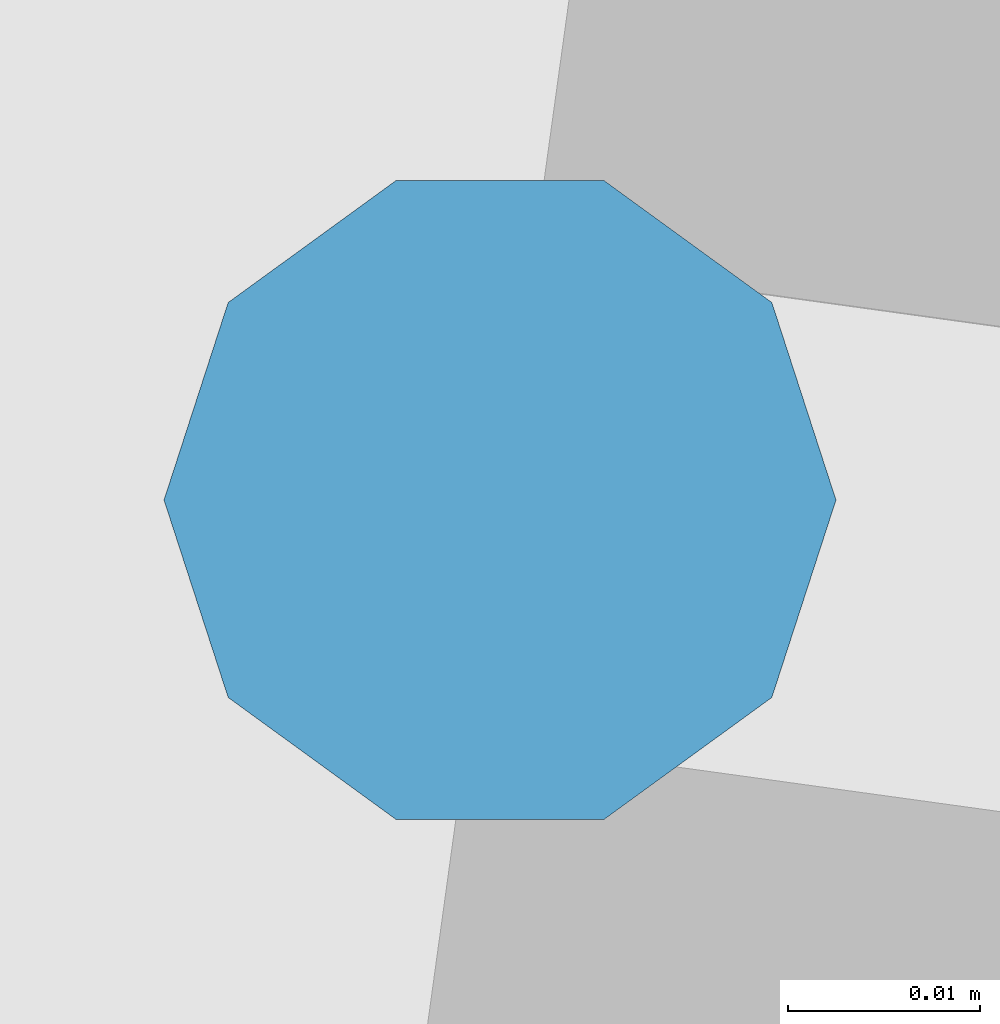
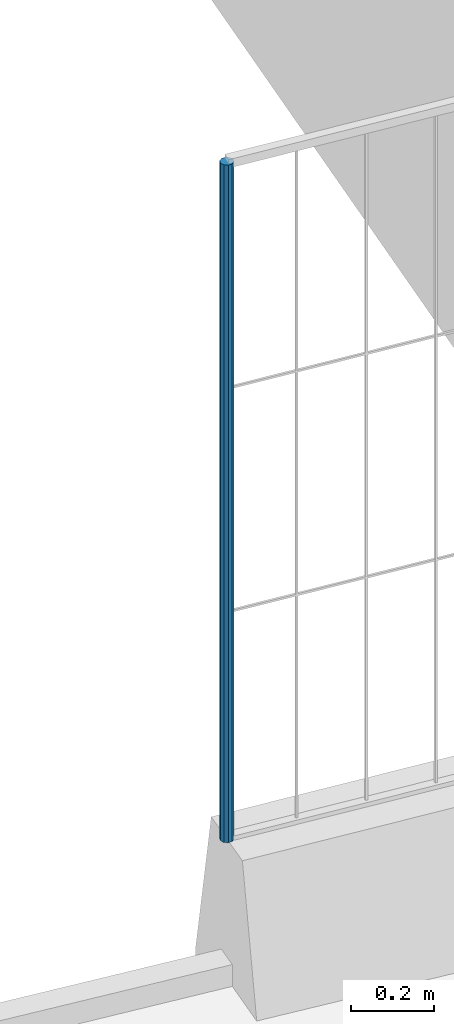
# Not in any storey, part 12 of 75: 1 member.
"""IFC4 model written with IfcOpenShell, lengths in metres."""

import ifcopenshell
import ifcopenshell.guid

model = None  # the IFC model being written
_history = None  # IfcOwnerHistory: only IFC2X3 demands one
_inside = {}  # id of a spatial element -> (the spatial element, [elements in it])
_under = {}  # id of a project, library or spatial element -> (it, [spatial elements below it])
_declared = {}  # id of a project -> (the project, [libraries it declares])
_typed = {}  # id of a type object -> (the type object, [elements of that type])
_made_of = {}  # id of a material, layer set ... -> (it, [elements and type objects made of it])


def new_model(schema):
    """Start an empty IFC model of exactly this schema.

    Asked for "IFC4X3", IfcOpenShell would pick the latest addendum, in which some entities
    have other attributes; the version numbers below select the first issue.
    IFC2X3 requires an IfcOwnerHistory on every rooted entity: one is made here for all.
    """
    global model, _history
    if schema == "IFC4X3":
        model = ifcopenshell.file(schema_version=(4, 3, 0, 0))
    else:
        model = ifcopenshell.file(schema=schema)
    _inside.clear()
    _under.clear()
    _declared.clear()
    _typed.clear()
    _made_of.clear()
    _history = None
    if model.schema == "IFC2X3":
        org = make("IfcOrganization", Name="unknown")
        user = make(
            "IfcPersonAndOrganization",
            ThePerson=make("IfcPerson", FamilyName="unknown"),
            TheOrganization=org,
        )
        app = make(
            "IfcApplication",
            ApplicationDeveloper=org,
            Version="unknown",
            ApplicationFullName="unknown",
            ApplicationIdentifier="unknown",
        )
        _history = make(
            "IfcOwnerHistory",
            OwningUser=user,
            OwningApplication=app,
            ChangeAction="ADDED",
            CreationDate=0,
        )
    return model


def make(cls, **values):
    """One entity of the class cls with the attributes given. An attribute that is None is left unset."""
    return model.create_entity(
        cls, **{name: value for name, value in values.items() if value is not None}
    )


def rooted(cls, **values):
    """An entity with a GlobalId (a new one), such as an element, a storey or a relation."""
    return make(cls, GlobalId=ifcopenshell.guid.new(), OwnerHistory=_history, **values)


def si_unit(unit_type, name, prefix=None):
    """IfcSIUnit, for example si_unit("LENGTHUNIT", "METRE", prefix="MILLI")."""
    return make("IfcSIUnit", UnitType=unit_type, Prefix=prefix, Name=name)


def assignment(units):
    """IfcUnitAssignment: the units of a project."""
    return None if units is None else make("IfcUnitAssignment", Units=units)


def point(xyz):
    """IfcCartesianPoint."""
    return None if xyz is None else make("IfcCartesianPoint", Coordinates=xyz)


def direction(xyz):
    """IfcDirection."""
    return None if xyz is None else make("IfcDirection", DirectionRatios=xyz)


def frame(location, z_axis=None, x_axis=None):
    """IfcAxis2Placement3D, a coordinate frame: its origin and axes. An axis left out is left unset."""
    return make(
        "IfcAxis2Placement3D",
        Location=point(location),
        Axis=direction(z_axis),
        RefDirection=direction(x_axis),
    )


def origin():
    """The frame at (0, 0, 0) with its axes left unset."""
    return frame((0.0, 0.0, 0.0))


def origin_with_axes():
    """The frame at (0, 0, 0) with the z axis (0, 0, 1) and the x axis (1, 0, 0) written out."""
    return frame((0.0, 0.0, 0.0), z_axis=(0.0, 0.0, 1.0), x_axis=(1.0, 0.0, 0.0))


def place(relative_to, where):
    """IfcLocalPlacement: puts the frame where relative to a parent placement (None: the world)."""
    return make(
        "IfcLocalPlacement", PlacementRelTo=relative_to, RelativePlacement=where
    )


def context(
    kind, dimensions, precision=None, world=None, true_north=None, identifier=None
):
    """IfcGeometricRepresentationContext, for example the 3D "Model" context."""
    return make(
        "IfcGeometricRepresentationContext",
        ContextIdentifier=identifier,
        ContextType=kind,
        CoordinateSpaceDimension=dimensions,
        Precision=precision,
        WorldCoordinateSystem=world,
        TrueNorth=true_north,
    )


def subcontext(parent, identifier, kind, view, scale=None):
    """IfcGeometricRepresentationSubContext, for example "Body" below "Model"."""
    return make(
        "IfcGeometricRepresentationSubContext",
        ContextIdentifier=identifier,
        ContextType=kind,
        ParentContext=parent,
        TargetScale=scale,
        TargetView=view,
    )


def project(units=None, contexts=None):
    """IfcProject with its units and contexts."""
    return rooted(
        "IfcProject",
        Name="project",
        RepresentationContexts=contexts,
        UnitsInContext=assignment(units),
    )


def spatial(cls, under=None, at=None, **own):
    """A site, building, storey or space (cls), placed at a placement, below another one or the project."""
    s = rooted(cls, ObjectPlacement=at, **own)
    if under is not None:
        _under.setdefault(under.id(), (under, []))[1].append(s)
    return s


def point_list(points):
    """IfcCartesianPointList2D or 3D."""
    cls = (
        "IfcCartesianPointList2D" if len(points[0]) == 2 else "IfcCartesianPointList3D"
    )
    return make(cls, CoordList=points)


def triangles(points, corners, closed=None, point_numbers=None):
    """IfcTriangulatedFaceSet: each triangle names its three corners, points numbered from 1."""
    return make(
        "IfcTriangulatedFaceSet",
        Coordinates=point_list(points),
        Closed=closed,
        CoordIndex=corners,
        PnIndex=point_numbers,
    )


def shape(context_of_items, identifier, shape_type, items):
    """IfcShapeRepresentation: the items that make up one representation, for example the "Body"."""
    return make(
        "IfcShapeRepresentation",
        ContextOfItems=context_of_items,
        RepresentationIdentifier=identifier,
        RepresentationType=shape_type,
        Items=items,
    )


def made_of(thing, what):
    """Note that an element or type object is made of a material, layer set ...; save() writes the relation."""
    if what is not None:
        _made_of.setdefault(what.id(), (what, []))[1].append(thing)
    return thing


def element(
    cls,
    number,
    at=None,
    inside=None,
    cuts=None,
    type_object=None,
    material=None,
    context=None,
    identifier="Body",
    shape_type=None,
    held_by="IfcProductDefinitionShape",
    body=None,
    shapes=None,
    **own,
):
    """One element of the class cls, such as IfcWall. Its Tag is "e" and its number.

    at: its placement. inside: the storey or other place that contains it. cuts: it is an
    opening in that element (IfcRelVoidsElement). A single representation is given by context,
    identifier, shape_type and body (its items); several are given by shapes. held_by: the class
    of the entity that holds the representations. save() writes the other relations.
    """
    e = rooted(cls, Tag="e%d" % number, ObjectPlacement=at, **own)
    if body is not None:
        shapes = [shape(context, identifier, shape_type, body)]
    if shapes is not None:
        e.Representation = make(held_by, Representations=shapes)
    if inside is not None:
        _inside.setdefault(inside.id(), (inside, []))[1].append(e)
    if cuts is not None:
        rooted(
            "IfcRelVoidsElement", RelatingBuildingElement=cuts, RelatedOpeningElement=e
        )
    if type_object is not None:
        _typed.setdefault(type_object.id(), (type_object, []))[1].append(e)
    return made_of(e, material)


def aggregate(whole, parts):
    """IfcRelAggregates: a whole, such as a stair, and the parts it consists of."""
    return rooted("IfcRelAggregates", RelatingObject=whole, RelatedObjects=parts)


def save(model, path):
    """Write the relations noted so far, then the file.

    IfcRelAggregates (storeys below a building ...), IfcRelContainedInSpatialStructure (elements
    in a storey), IfcRelDefinesByType, IfcRelAssociatesMaterial and IfcRelDeclares: one each for
    every whole, place, type object, material and project.
    """
    for whole, parts in _under.values():
        aggregate(whole, parts)
    for where, things in _inside.values():
        rooted(
            "IfcRelContainedInSpatialStructure",
            RelatedElements=things,
            RelatingStructure=where,
        )
    for kind, things in _typed.values():
        rooted("IfcRelDefinesByType", RelatedObjects=things, RelatingType=kind)
    for what, things in _made_of.values():
        rooted("IfcRelAssociatesMaterial", RelatedObjects=things, RelatingMaterial=what)
    for by, libraries in _declared.values():
        rooted("IfcRelDeclares", RelatingContext=by, RelatedDefinitions=libraries)
    model.write(path)


model = new_model("IFC4")

# Units and contexts
model_context = context("Model", 3, precision=1e-05, world=origin_with_axes(), true_north=direction((0.0, 1.0)))
body_context = subcontext(model_context, "Body", "Model", "MODEL_VIEW")
ifc_project = project(units=[si_unit("AREAUNIT", "SQUARE_METRE"), si_unit("VOLUMEUNIT", "CUBIC_METRE"), si_unit("LENGTHUNIT", "METRE")], contexts=[model_context])

# Site
site_placement = place(None, origin_with_axes())
site = spatial("IfcSite", under=ifc_project, at=site_placement, Name="Parcela industrial Jinhong")

# Member
member_placement = place(None, origin())
element("IfcMember", 1, at=member_placement, inside=site, Name="Postes de vallado · Retorno sureste", ObjectType="Tubo de perfil 35 × 2 mm", PredefinedType="USERDEFINED", context=body_context, shape_type="Tessellation", body=[
    triangles([(123.154186, 2.937994, 2.369101), (123.171686, 2.937994, 2.369101), (123.171686, 2.937994, 4.369101), (123.154186, 2.937994, 4.369101), (123.168344, 2.948281, 2.369101), (123.168344, 2.948281, 4.369101), (123.159594, 2.954638, 2.369101), (123.159594, 2.954638, 4.369101), (123.148778, 2.954638, 2.369101), (123.148778, 2.954638, 4.369101), (123.140028, 2.948281, 2.369101), (123.140028, 2.948281, 4.369101), (123.136686, 2.937994, 2.369101), (123.136686, 2.937994, 4.369101), (123.140028, 2.927708, 2.369101), (123.140028, 2.927708, 4.369101), (123.148778, 2.921351, 2.369101), (123.148778, 2.921351, 4.369101), (123.159594, 2.921351, 2.369101), (123.159594, 2.921351, 4.369101), (123.168344, 2.927708, 2.369101), (123.168344, 2.927708, 4.369101)], [[2, 1, 5], [2, 5, 3], [3, 5, 6], [3, 6, 4], [5, 1, 7], [5, 7, 6], [6, 7, 8], [6, 8, 4], [7, 1, 9], [7, 9, 8], [8, 9, 10], [8, 10, 4], [9, 1, 11], [9, 11, 10], [10, 11, 12], [10, 12, 4], [11, 1, 13], [11, 13, 12], [12, 13, 14], [12, 14, 4], [13, 1, 15], [13, 15, 14], [14, 15, 16], [14, 16, 4], [15, 1, 17], [15, 17, 16], [16, 17, 18], [16, 18, 4], [17, 1, 19], [17, 19, 18], [18, 19, 20], [18, 20, 4], [19, 1, 21], [19, 21, 20], [20, 21, 22], [20, 22, 4], [21, 1, 2], [21, 2, 22], [22, 2, 3], [22, 3, 4]], closed=True),
])

save(model, "model.ifc")
